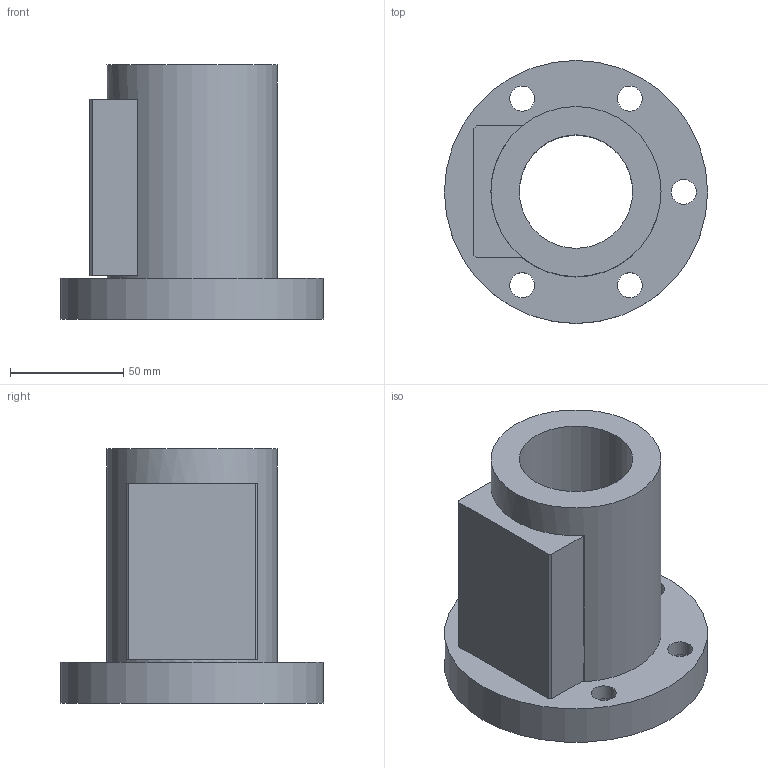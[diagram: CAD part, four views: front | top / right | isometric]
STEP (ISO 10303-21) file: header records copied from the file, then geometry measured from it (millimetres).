
FILE_DESCRIPTION(/* description */ (''),/* implementation_level */ '2;1');
FILE_NAME(/* name */ '50-8B3',/* time_stamp */ '2006-07-31T11:48:36+08:00',/* author */ (''),/* organization */ (''),/* preprocessor_version */ 'ST-DEVELOPER v9',/* originating_system */ 'UGS - NX 4.0',/* authorisation */ '');
FILE_SCHEMA (('CONFIG_CONTROL_DESIGN'));
Length unit declared in the file: millimetre
Products named in the file (1): 50-8B3
Bounding box: 116 x 116 x 112 mm (x, y, z)
Volume: 421789.3 mm3; surface area: 70757.2 mm2
Topology: 1 solids, 1 shells, 30 faces, 67 edges, 46 vertices
Faces by surface type: plane 17, cylinder 13
Full cylindrical faces by diameter (mm): 11 x5, 17.5 x5, 50 x1, 75 x1, 116 x1
Entity records: 860 total; most frequent: DIRECTION 140, CARTESIAN_POINT 123, ORIENTED_EDGE 100, EDGE_LOOP 62, AXIS2_PLACEMENT_3D 59, EDGE_CURVE 50, FACE_BOUND 45, VERTEX_POINT 42
